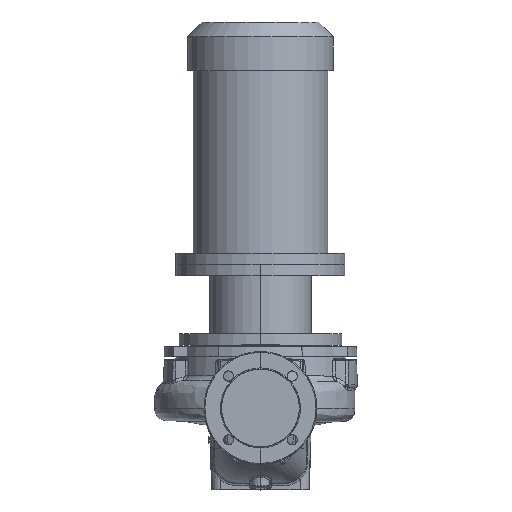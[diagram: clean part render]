
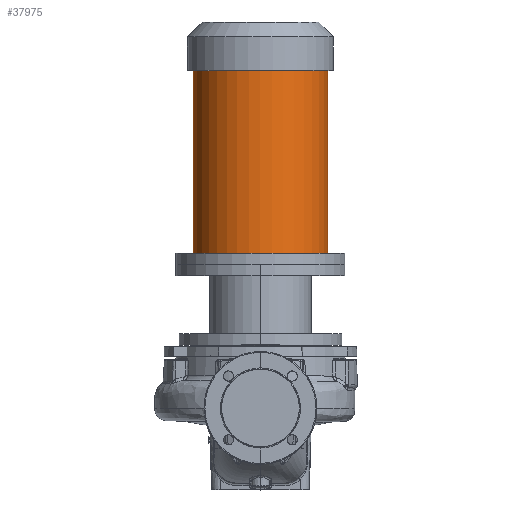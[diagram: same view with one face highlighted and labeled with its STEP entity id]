
A CAD part, top view. The second image highlights one B-rep face of the part: STEP entity #37975.
In plain terms, the highlighted cylindrical face has radius 119.5 mm (diameter 239 mm), a partial arc.
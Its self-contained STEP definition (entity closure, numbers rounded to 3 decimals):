
#3733 = CYLINDRICAL_SURFACE ( 'NONE', #47714, 119.5 ) ;
#8066 = CARTESIAN_POINT ( 'NONE',  ( 0., 254.8, 0. ) ) ;
#9066 = FACE_OUTER_BOUND ( 'NONE', #59402, .T. ) ;
#9209 = ORIENTED_EDGE ( 'NONE', *, *, #43506, .T. ) ;
#9801 = VECTOR ( 'NONE', #32426, 1000. ) ;
#10342 = ORIENTED_EDGE ( 'NONE', *, *, #20936, .T. ) ;
#10445 = VERTEX_POINT ( 'NONE', #57374 ) ;
#12851 = CARTESIAN_POINT ( 'NONE',  ( 119.5, 254.8, 0. ) ) ;
#14527 = CARTESIAN_POINT ( 'NONE',  ( -119.5, 274.8, 0. ) ) ;
#14688 = DIRECTION ( 'NONE',  ( 0., -1., 0. ) ) ;
#15065 = LINE ( 'NONE', #12851, #9801 ) ;
#15148 = CARTESIAN_POINT ( 'NONE',  ( 119.5, 274.8, 0. ) ) ;
#16843 = CARTESIAN_POINT ( 'NONE',  ( 119.5, 598.8, 0. ) ) ;
#17162 = CARTESIAN_POINT ( 'NONE',  ( 0., 274.8, 0. ) ) ;
#17399 = DIRECTION ( 'NONE',  ( -1., 0., 0. ) ) ;
#20936 = EDGE_CURVE ( 'NONE', #61387, #10445, #47744, .T. ) ;
#21390 = DIRECTION ( 'NONE',  ( -1., 0., 0. ) ) ;
#23616 = CARTESIAN_POINT ( 'NONE',  ( -119.5, 254.8, 0. ) ) ;
#25217 = ORIENTED_EDGE ( 'NONE', *, *, #51282, .F. ) ;
#27453 = CARTESIAN_POINT ( 'NONE',  ( 0., 598.8, 0. ) ) ;
#32273 = EDGE_CURVE ( 'NONE', #61387, #47966, #15065, .T. ) ;
#32426 = DIRECTION ( 'NONE',  ( 0., -1., 0. ) ) ;
#36409 = VECTOR ( 'NONE', #14688, 1000. ) ;
#37144 = LINE ( 'NONE', #23616, #36409 ) ;
#37975 = ADVANCED_FACE ( 'NONE', ( #9066 ), #3733, .T. ) ;
#42282 = DIRECTION ( 'NONE',  ( 0., -1., 0. ) ) ;
#43506 = EDGE_CURVE ( 'NONE', #10445, #47785, #37144, .T. ) ;
#47714 = AXIS2_PLACEMENT_3D ( 'NONE', #8066, #42282, #17399 ) ;
#47744 = CIRCLE ( 'NONE', #50125, 119.5 ) ;
#47785 = VERTEX_POINT ( 'NONE', #14527 ) ;
#47966 = VERTEX_POINT ( 'NONE', #15148 ) ;
#48109 = ORIENTED_EDGE ( 'NONE', *, *, #32273, .F. ) ;
#50125 = AXIS2_PLACEMENT_3D ( 'NONE', #27453, #50829, #56340 ) ;
#50283 = AXIS2_PLACEMENT_3D ( 'NONE', #17162, #56045, #21390 ) ;
#50829 = DIRECTION ( 'NONE',  ( 0., -1., 0. ) ) ;
#51282 = EDGE_CURVE ( 'NONE', #47966, #47785, #52983, .T. ) ;
#52983 = CIRCLE ( 'NONE', #50283, 119.5 ) ;
#56045 = DIRECTION ( 'NONE',  ( 0., -1., 0. ) ) ;
#56340 = DIRECTION ( 'NONE',  ( -1., 0., 0. ) ) ;
#57374 = CARTESIAN_POINT ( 'NONE',  ( -119.5, 598.8, 0. ) ) ;
#59402 = EDGE_LOOP ( 'NONE', ( #48109, #10342, #9209, #25217 ) ) ;
#61387 = VERTEX_POINT ( 'NONE', #16843 ) ;
